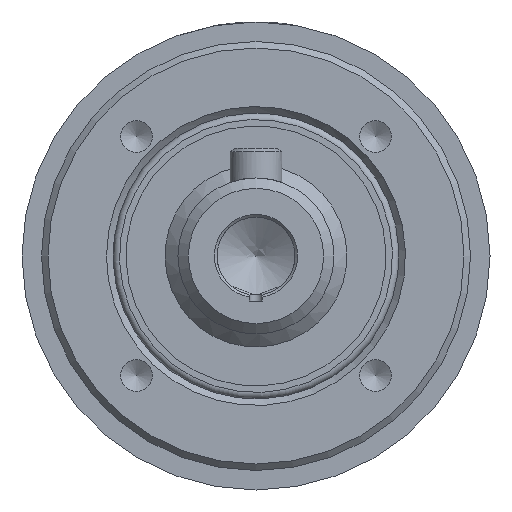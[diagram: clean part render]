
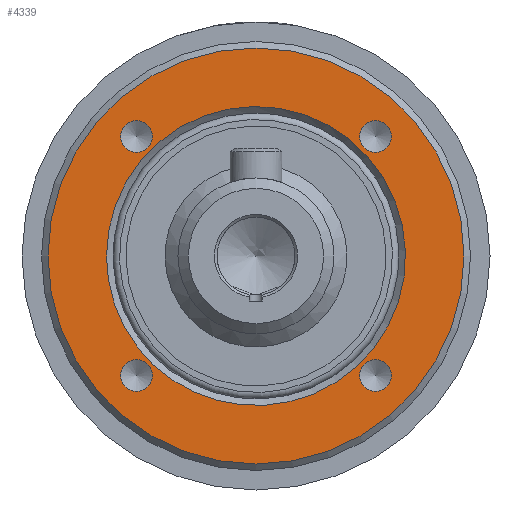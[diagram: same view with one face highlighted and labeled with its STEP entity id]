
A CAD part, left-side view. The second image highlights one B-rep face of the part: STEP entity #4339.
In plain terms, the highlighted planar face has unit normal (-1, 0, 0).
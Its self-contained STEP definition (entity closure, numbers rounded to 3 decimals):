
#4253=CARTESIAN_POINT('',(-21.0,16.0,0.));
#4254=VERTEX_POINT('',#4253);
#4255=CARTESIAN_POINT('',(-21.0,0.0,0.0));
#4256=DIRECTION('',(1.0,0.0,0.0));
#4257=DIRECTION('',(0.0,-1.0,0.0));
#4258=AXIS2_PLACEMENT_3D('',#4255,#4256,#4257);
#4259=CIRCLE('',#4258,16.0);
#4260=EDGE_CURVE('',#4254,#4254,#4259,.T.);
#4276=CARTESIAN_POINT('',(-21.0,13.75,0.0));
#4277=DIRECTION('',(-1.0,0.0,0.0));
#4278=DIRECTION('',(0.0,0.0,1.0));
#4279=AXIS2_PLACEMENT_3D('',#4276,#4277,#4278);
#4280=PLANE('',#4279);
#4281=ORIENTED_EDGE('',*,*,#4260,.F.);
#4282=EDGE_LOOP('',(#4281));
#4283=FACE_OUTER_BOUND('',#4282,.T.);
#4284=CARTESIAN_POINT('',(-21.0,11.5,0.));
#4285=VERTEX_POINT('',#4284);
#4286=CARTESIAN_POINT('',(-21.0,0.0,0.0));
#4287=DIRECTION('',(-1.0,0.0,0.0));
#4288=DIRECTION('',(0.0,-1.0,0.0));
#4289=AXIS2_PLACEMENT_3D('',#4286,#4287,#4288);
#4290=CIRCLE('',#4289,11.5);
#4291=EDGE_CURVE('',#4285,#4285,#4290,.T.);
#4292=ORIENTED_EDGE('',*,*,#4291,.F.);
#4293=EDGE_LOOP('',(#4292));
#4294=FACE_BOUND('',#4293,.T.);
#4295=CARTESIAN_POINT('',(-21.0,9.192,-7.963));
#4296=VERTEX_POINT('',#4295);
#4297=CARTESIAN_POINT('',(-21.0,9.192,-9.192));
#4298=DIRECTION('',(1.0,0.0,0.0));
#4299=DIRECTION('',(0.0,0.0,1.0));
#4300=AXIS2_PLACEMENT_3D('',#4297,#4298,#4299);
#4301=CIRCLE('',#4300,1.23);
#4302=EDGE_CURVE('',#4296,#4296,#4301,.T.);
#4303=ORIENTED_EDGE('',*,*,#4302,.T.);
#4304=EDGE_LOOP('',(#4303));
#4305=FACE_BOUND('',#4304,.T.);
#4306=CARTESIAN_POINT('',(-21.0,-7.963,-9.192));
#4307=VERTEX_POINT('',#4306);
#4308=CARTESIAN_POINT('',(-21.0,-9.192,-9.192));
#4309=DIRECTION('',(1.0,0.0,0.0));
#4310=DIRECTION('',(0.0,1.0,0.0));
#4311=AXIS2_PLACEMENT_3D('',#4308,#4309,#4310);
#4312=CIRCLE('',#4311,1.23);
#4313=EDGE_CURVE('',#4307,#4307,#4312,.T.);
#4314=ORIENTED_EDGE('',*,*,#4313,.T.);
#4315=EDGE_LOOP('',(#4314));
#4316=FACE_BOUND('',#4315,.T.);
#4317=CARTESIAN_POINT('',(-21.0,-9.192,7.963));
#4318=VERTEX_POINT('',#4317);
#4319=CARTESIAN_POINT('',(-21.0,-9.192,9.192));
#4320=DIRECTION('',(1.0,0.0,0.0));
#4321=DIRECTION('',(0.0,0.0,-1.0));
#4322=AXIS2_PLACEMENT_3D('',#4319,#4320,#4321);
#4323=CIRCLE('',#4322,1.23);
#4324=EDGE_CURVE('',#4318,#4318,#4323,.T.);
#4325=ORIENTED_EDGE('',*,*,#4324,.T.);
#4326=EDGE_LOOP('',(#4325));
#4327=FACE_BOUND('',#4326,.T.);
#4328=CARTESIAN_POINT('',(-21.0,7.963,9.192));
#4329=VERTEX_POINT('',#4328);
#4330=CARTESIAN_POINT('',(-21.0,9.192,9.192));
#4331=DIRECTION('',(1.0,0.0,0.0));
#4332=DIRECTION('',(0.0,-1.0,0.0));
#4333=AXIS2_PLACEMENT_3D('',#4330,#4331,#4332);
#4334=CIRCLE('',#4333,1.23);
#4335=EDGE_CURVE('',#4329,#4329,#4334,.T.);
#4336=ORIENTED_EDGE('',*,*,#4335,.T.);
#4337=EDGE_LOOP('',(#4336));
#4338=FACE_BOUND('',#4337,.T.);
#4339=ADVANCED_FACE('',(#4283,#4294,#4305,#4316,#4327,#4338),#4280,.T.);
